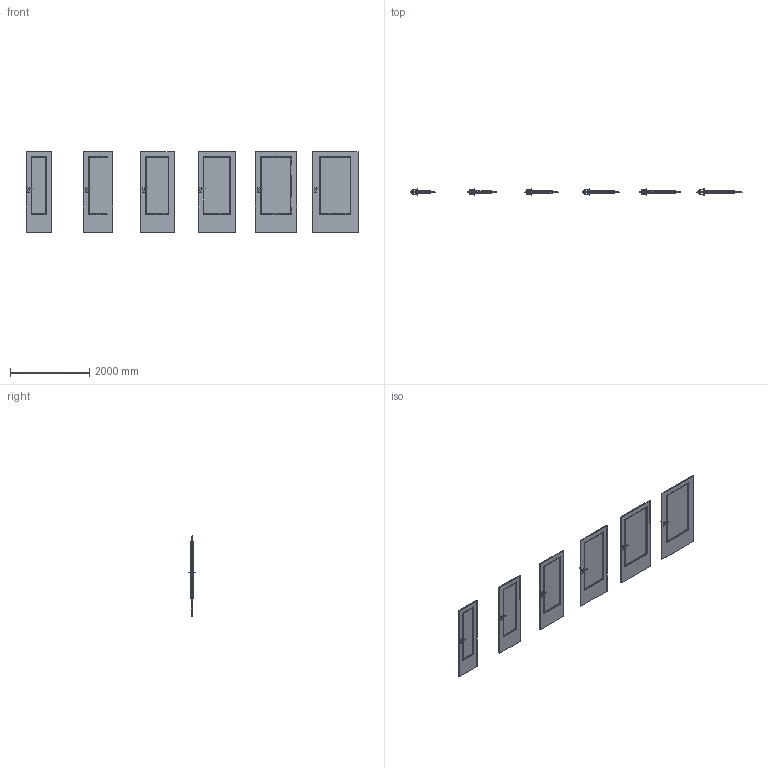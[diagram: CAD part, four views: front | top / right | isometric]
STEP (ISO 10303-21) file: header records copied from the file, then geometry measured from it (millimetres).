
FILE_DESCRIPTION(/* description */ (''),/* implementation_level */ '2;1');
FILE_NAME(/* name */ '050010_A_2-Skrzydło MINIMAX model D_ polska norma _PN__ przylgowe..stp',/* time_stamp */ '2024-12-16T11:52:18+01:00',/* author */ (''),/* organization */ (''),/* preprocessor_version */ 'ST-DEVELOPER v16',/* originating_system */ 'SIEMENS PLM Software NX 11.0',/* authorisation */ '');
FILE_SCHEMA (('AUTOMOTIVE_DESIGN { 1 0 10303 214 3 1 1 1 }'));
Products named in the file (1): bkni56B0C2FDkzj5
Bounding box: 8394 x 153.27 x 2030 mm (x, y, z)
Volume: 244669615.4 mm3; surface area: 25739482.1 mm2
Topology: 30 solids, 36 shells, 1752 faces, 4366 edges, 2482 vertices
Faces by surface type: plane 744, bspline 552, cylinder 288, sphere 168
Entity records: 83060 total; most frequent: CARTESIAN_POINT 46094, ORIENTED_EDGE 8396, DIRECTION 6242, EDGE_CURVE 4198, VERTEX_POINT 2482, LINE 2184, VECTOR 2184, AXIS2_PLACEMENT_3D 2029
